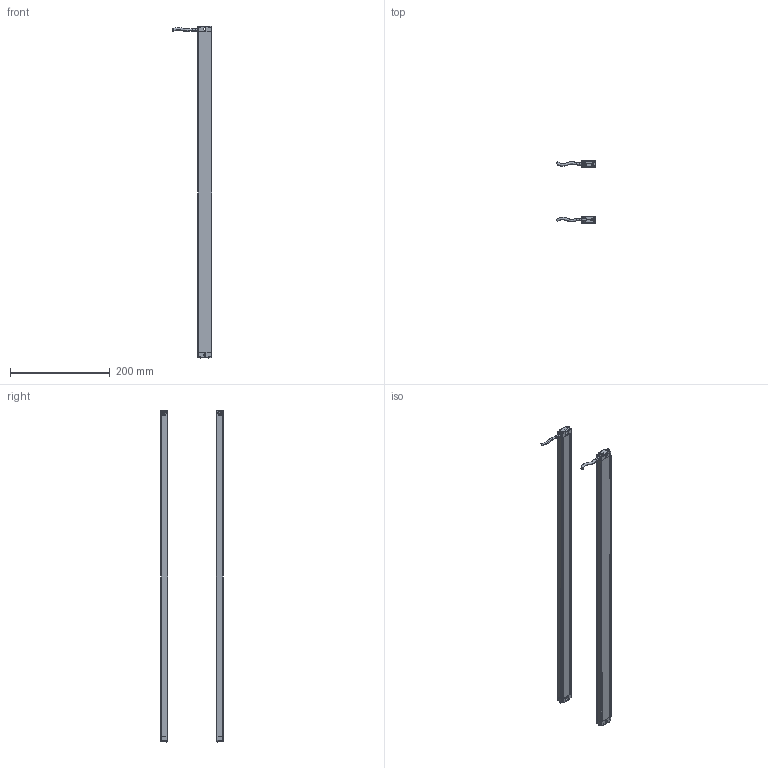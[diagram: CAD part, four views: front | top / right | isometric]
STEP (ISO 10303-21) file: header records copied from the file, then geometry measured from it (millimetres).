
FILE_DESCRIPTION(/* description */ (''),/* implementation_level */ '2;1');
FILE_NAME(/* name */ '1640（13x28w).stp',/* time_stamp */ '2020-07-14T20:10:29+08:00',/* author */ (''),/* organization */ (''),/* preprocessor_version */ 'ST-DEVELOPER v16',/* originating_system */ 'SIEMENS PLM Software NX 10.0',/* authorisation */ '');
FILE_SCHEMA (('AP203_CONFIGURATION_CONTROLLED_3D_DESIGN_OF_MECHANICAL_PARTS_AND_ASSEMBLIES_MIM_LF { 1 0 10303 403 2 1 2}'));
Length unit declared in the file: millimetre
Products named in the file (1): Admi58A03253m8a5
Bounding box: 79.6 x 125.02 x 666 mm (x, y, z)
Volume: 194747.9 mm3; surface area: 258542.3 mm2
Topology: 10 solids, 10 shells, 760 faces, 2150 edges, 1419 vertices
Faces by surface type: plane 356, cylinder 312, torus 52, bspline 40
Entity records: 28395 total; most frequent: CARTESIAN_POINT 8859, ORIENTED_EDGE 4300, DIRECTION 3785, EDGE_CURVE 2150, VERTEX_POINT 1419, AXIS2_PLACEMENT_3D 1285, LINE 1215, VECTOR 1215
